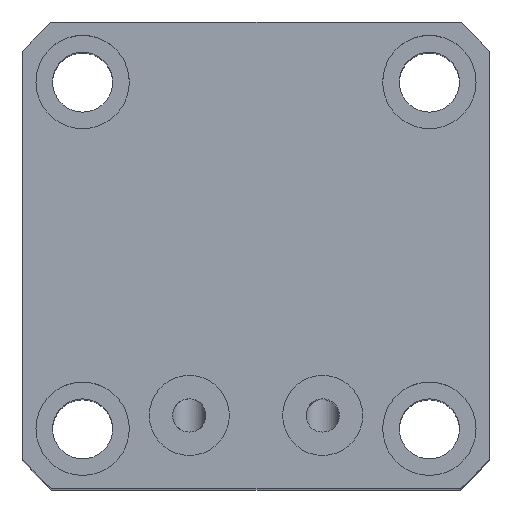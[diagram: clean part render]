
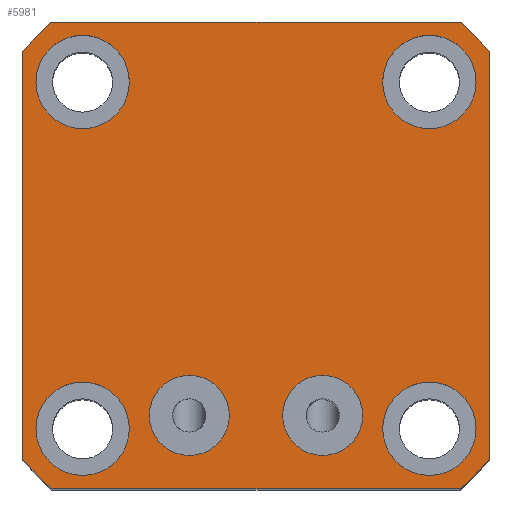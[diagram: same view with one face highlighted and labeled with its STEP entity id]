
A CAD part, top view. The second image highlights one B-rep face of the part: STEP entity #5981.
In plain terms, the highlighted planar face has unit normal (0, 0, 1).
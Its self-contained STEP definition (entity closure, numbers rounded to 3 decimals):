
#2930=PLANE('',#12022);
#3640=LINE('',#14412,#4524);
#3646=LINE('',#14676,#4530);
#3650=LINE('',#14685,#4534);
#3654=LINE('',#14694,#4538);
#4524=VECTOR('',#12484,1.);
#4530=VECTOR('',#12610,1.);
#4534=VECTOR('',#12616,1.);
#4538=VECTOR('',#12622,1.);
#5981=ADVANCED_FACE('',(#6518,#6519,#6520,#6521,#6522,#6523,#6524),#2930,
 .T.);
#6518=FACE_BOUND('',#6726,.T.);
#6519=FACE_BOUND('',#6727,.T.);
#6520=FACE_BOUND('',#6728,.T.);
#6521=FACE_BOUND('',#6729,.T.);
#6522=FACE_BOUND('',#6730,.T.);
#6523=FACE_BOUND('',#6731,.T.);
#6524=FACE_BOUND('',#6732,.T.);
#6726=EDGE_LOOP('',(#7383));
#6727=EDGE_LOOP('',(#7384));
#6728=EDGE_LOOP('',(#7385));
#6729=EDGE_LOOP('',(#7386));
#6730=EDGE_LOOP('',(#7387));
#6731=EDGE_LOOP('',(#7388));
#6732=EDGE_LOOP('',(#7389,#7390,#7391,#7392,#7393,#7394,#7395,#7396));
#7383=ORIENTED_EDGE('',*,*,#10632,.F.);
#7384=ORIENTED_EDGE('',*,*,#10634,.F.);
#7385=ORIENTED_EDGE('',*,*,#10657,.F.);
#7386=ORIENTED_EDGE('',*,*,#10659,.F.);
#7387=ORIENTED_EDGE('',*,*,#10661,.F.);
#7388=ORIENTED_EDGE('',*,*,#10663,.F.);
#7389=ORIENTED_EDGE('',*,*,#10612,.T.);
#7390=ORIENTED_EDGE('',*,*,#10677,.T.);
#7391=ORIENTED_EDGE('',*,*,#10666,.T.);
#7392=ORIENTED_EDGE('',*,*,#10678,.T.);
#7393=ORIENTED_EDGE('',*,*,#10670,.T.);
#7394=ORIENTED_EDGE('',*,*,#10679,.T.);
#7395=ORIENTED_EDGE('',*,*,#10674,.T.);
#7396=ORIENTED_EDGE('',*,*,#10680,.T.);
#9746=VERTEX_POINT('',#14410);
#9748=VERTEX_POINT('',#14413);
#9767=VERTEX_POINT('',#14592);
#9769=VERTEX_POINT('',#14597);
#9791=VERTEX_POINT('',#14654);
#9793=VERTEX_POINT('',#14659);
#9795=VERTEX_POINT('',#14664);
#9797=VERTEX_POINT('',#14669);
#9799=VERTEX_POINT('',#14674);
#9801=VERTEX_POINT('',#14677);
#9803=VERTEX_POINT('',#14683);
#9805=VERTEX_POINT('',#14686);
#9807=VERTEX_POINT('',#14692);
#9809=VERTEX_POINT('',#14695);
#10612=EDGE_CURVE('',#9748,#9746,#3640,.T.);
#10632=EDGE_CURVE('',#9767,#9767,#11841,.T.);
#10634=EDGE_CURVE('',#9769,#9769,#11843,.T.);
#10657=EDGE_CURVE('',#9791,#9791,#11866,.T.);
#10659=EDGE_CURVE('',#9793,#9793,#11868,.T.);
#10661=EDGE_CURVE('',#9795,#9795,#11870,.T.);
#10663=EDGE_CURVE('',#9797,#9797,#11872,.T.);
#10666=EDGE_CURVE('',#9801,#9799,#3646,.T.);
#10670=EDGE_CURVE('',#9805,#9803,#3650,.T.);
#10674=EDGE_CURVE('',#9809,#9807,#3654,.T.);
#10677=EDGE_CURVE('',#9746,#9801,#11874,.T.);
#10678=EDGE_CURVE('',#9799,#9805,#11875,.T.);
#10679=EDGE_CURVE('',#9803,#9809,#11876,.T.);
#10680=EDGE_CURVE('',#9807,#9748,#11877,.T.);
#11841=CIRCLE('',#11965,6.);
#11843=CIRCLE('',#11968,6.);
#11866=CIRCLE('',#12003,7.);
#11868=CIRCLE('',#12006,7.);
#11870=CIRCLE('',#12009,7.);
#11872=CIRCLE('',#12012,7.);
#11874=CIRCLE('',#12018,46.5);
#11875=CIRCLE('',#12019,46.5);
#11876=CIRCLE('',#12020,46.5);
#11877=CIRCLE('',#12021,46.5);
#11965=AXIS2_PLACEMENT_3D('',#14591,#12509,#12510);
#11968=AXIS2_PLACEMENT_3D('',#14596,#12515,#12516);
#12003=AXIS2_PLACEMENT_3D('',#14653,#12585,#12586);
#12006=AXIS2_PLACEMENT_3D('',#14658,#12591,#12592);
#12009=AXIS2_PLACEMENT_3D('',#14663,#12597,#12598);
#12012=AXIS2_PLACEMENT_3D('',#14668,#12603,#12604);
#12018=AXIS2_PLACEMENT_3D('',#14700,#12627,#12628);
#12019=AXIS2_PLACEMENT_3D('',#14701,#12629,#12630);
#12020=AXIS2_PLACEMENT_3D('',#14702,#12631,#12632);
#12021=AXIS2_PLACEMENT_3D('',#14703,#12633,#12634);
#12022=AXIS2_PLACEMENT_3D('',#14704,#12635,#12636);
#12484=DIRECTION('',(-1.,0.,0.));
#12509=DIRECTION('',(0.,0.,1.));
#12510=DIRECTION('',(0.,1.,0.));
#12515=DIRECTION('',(0.,0.,1.));
#12516=DIRECTION('',(0.,1.,0.));
#12585=DIRECTION('',(0.,0.,1.));
#12586=DIRECTION('',(0.,1.,0.));
#12591=DIRECTION('',(0.,0.,1.));
#12592=DIRECTION('',(0.,1.,0.));
#12597=DIRECTION('',(0.,0.,1.));
#12598=DIRECTION('',(0.,1.,0.));
#12603=DIRECTION('',(0.,0.,1.));
#12604=DIRECTION('',(0.,1.,0.));
#12610=DIRECTION('',(0.,-1.,0.));
#12616=DIRECTION('',(1.,0.,0.));
#12622=DIRECTION('',(0.,1.,0.));
#12627=DIRECTION('',(0.,0.,1.));
#12628=DIRECTION('',(0.,1.,0.));
#12629=DIRECTION('',(0.,0.,1.));
#12630=DIRECTION('',(0.,1.,0.));
#12631=DIRECTION('',(0.,0.,1.));
#12632=DIRECTION('',(0.,1.,0.));
#12633=DIRECTION('',(0.,0.,1.));
#12634=DIRECTION('',(0.,1.,0.));
#12635=DIRECTION('',(0.,0.,1.));
#12636=DIRECTION('',(0.,-1.,0.));
#14410=CARTESIAN_POINT('',(-34.691,13.554,108.955));
#14412=CARTESIAN_POINT('',(-39.077,13.554,108.955));
#14413=CARTESIAN_POINT('',(26.538,13.554,108.955));
#14591=CARTESIAN_POINT('',(5.923,-45.446,108.955));
#14592=CARTESIAN_POINT('',(5.923,-39.446,108.955));
#14596=CARTESIAN_POINT('',(-14.077,-45.446,108.955));
#14597=CARTESIAN_POINT('',(-14.077,-39.446,108.955));
#14653=CARTESIAN_POINT('',(21.923,-47.446,108.955));
#14654=CARTESIAN_POINT('',(21.923,-40.446,108.955));
#14658=CARTESIAN_POINT('',(21.923,4.554,108.955));
#14659=CARTESIAN_POINT('',(21.923,11.554,108.955));
#14663=CARTESIAN_POINT('',(-30.077,4.554,108.955));
#14664=CARTESIAN_POINT('',(-30.077,11.554,108.955));
#14668=CARTESIAN_POINT('',(-30.077,-47.446,108.955));
#14669=CARTESIAN_POINT('',(-30.077,-40.446,108.955));
#14674=CARTESIAN_POINT('',(-39.077,-52.061,108.955));
#14676=CARTESIAN_POINT('',(-39.077,-56.446,108.955));
#14677=CARTESIAN_POINT('',(-39.077,9.168,108.955));
#14683=CARTESIAN_POINT('',(26.538,-56.446,108.955));
#14685=CARTESIAN_POINT('',(-39.077,-56.446,108.955));
#14686=CARTESIAN_POINT('',(-34.691,-56.446,108.955));
#14692=CARTESIAN_POINT('',(30.923,9.168,108.955));
#14694=CARTESIAN_POINT('',(30.923,-56.446,108.955));
#14695=CARTESIAN_POINT('',(30.923,-52.061,108.955));
#14700=CARTESIAN_POINT('',(-4.077,-21.446,108.955));
#14701=CARTESIAN_POINT('',(-4.077,-21.446,108.955));
#14702=CARTESIAN_POINT('',(-4.077,-21.446,108.955));
#14703=CARTESIAN_POINT('',(-4.077,-21.446,108.955));
#14704=CARTESIAN_POINT('',(-4.077,-21.446,108.955));
